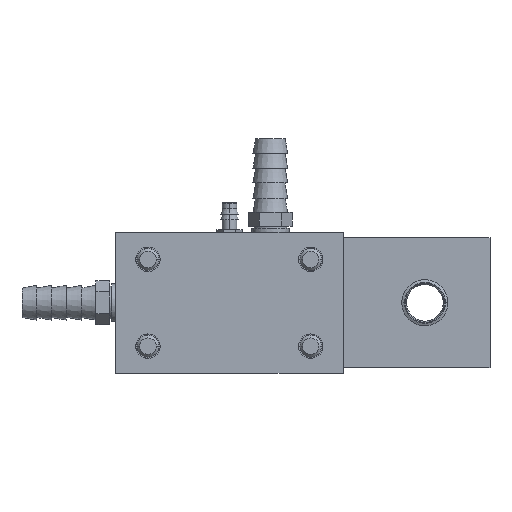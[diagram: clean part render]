
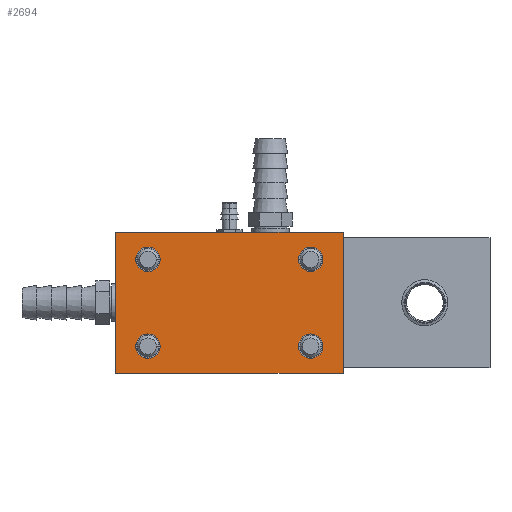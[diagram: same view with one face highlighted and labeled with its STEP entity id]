
A CAD part, left-side view. The second image highlights one B-rep face of the part: STEP entity #2694.
In plain terms, the highlighted planar face has unit normal (-1, 0, 0).
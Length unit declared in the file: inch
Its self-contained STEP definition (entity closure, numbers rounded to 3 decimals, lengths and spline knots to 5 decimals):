
#2429=CARTESIAN_POINT('',(-3.3125,-0.935,-0.5));
#2430=DIRECTION('',(1.,0.,0.));
#2431=DIRECTION('',(0.,-1.,0.));
#2432=AXIS2_PLACEMENT_3D('',#2429,#2430,#2431);
#2434=CARTESIAN_POINT('',(-3.3125,-0.935,-0.5));
#2435=DIRECTION('',(1.,0.,0.));
#2436=DIRECTION('',(0.,1.,0.));
#2437=AXIS2_PLACEMENT_3D('',#2434,#2435,#2436);
#2439=CARTESIAN_POINT('',(-3.3125,-0.935,0.5));
#2440=DIRECTION('',(1.,0.,0.));
#2441=DIRECTION('',(0.,-1.,0.));
#2442=AXIS2_PLACEMENT_3D('',#2439,#2440,#2441);
#2444=CARTESIAN_POINT('',(-3.3125,-0.935,0.5));
#2445=DIRECTION('',(1.,0.,0.));
#2446=DIRECTION('',(0.,1.,0.));
#2447=AXIS2_PLACEMENT_3D('',#2444,#2445,#2446);
#2449=CARTESIAN_POINT('',(-3.3125,0.94,-0.5));
#2450=DIRECTION('',(1.,0.,0.));
#2451=DIRECTION('',(0.,-1.,0.));
#2452=AXIS2_PLACEMENT_3D('',#2449,#2450,#2451);
#2454=CARTESIAN_POINT('',(-3.3125,0.94,-0.5));
#2455=DIRECTION('',(1.,0.,0.));
#2456=DIRECTION('',(0.,1.,0.));
#2457=AXIS2_PLACEMENT_3D('',#2454,#2455,#2456);
#2459=CARTESIAN_POINT('',(-3.3125,0.94,0.5));
#2460=DIRECTION('',(1.,0.,0.));
#2461=DIRECTION('',(0.,-1.,0.));
#2462=AXIS2_PLACEMENT_3D('',#2459,#2460,#2461);
#2464=CARTESIAN_POINT('',(-3.3125,0.94,0.5));
#2465=DIRECTION('',(1.,0.,0.));
#2466=DIRECTION('',(0.,1.,0.));
#2467=AXIS2_PLACEMENT_3D('',#2464,#2465,#2466);
#2497=DIRECTION('',(0.,-1.,0.));
#2498=VECTOR('',#2497,2.625);
#2499=CARTESIAN_POINT('',(-3.3125,1.315,0.8125));
#2500=LINE('',#2499,#2498);
#2505=DIRECTION('',(0.,0.,-1.));
#2506=VECTOR('',#2505,1.625);
#2507=CARTESIAN_POINT('',(-3.3125,-1.31,0.8125));
#2508=LINE('',#2507,#2506);
#2517=DIRECTION('',(0.,1.,0.));
#2518=VECTOR('',#2517,2.625);
#2519=CARTESIAN_POINT('',(-3.3125,-1.31,-0.8125));
#2520=LINE('',#2519,#2518);
#2533=DIRECTION('',(0.,0.,1.));
#2534=VECTOR('',#2533,1.625);
#2535=CARTESIAN_POINT('',(-3.3125,1.315,-0.8125));
#2536=LINE('',#2535,#2534);
#2547=CARTESIAN_POINT('',(-3.3125,1.315,-0.8125));
#2548=VERTEX_POINT('',#2547);
#2549=CARTESIAN_POINT('',(-3.3125,1.315,0.8125));
#2550=VERTEX_POINT('',#2549);
#2553=CARTESIAN_POINT('',(-3.3125,-1.31,-0.8125));
#2554=VERTEX_POINT('',#2553);
#2555=CARTESIAN_POINT('',(-3.3125,-1.31,0.8125));
#2556=VERTEX_POINT('',#2555);
#2557=CARTESIAN_POINT('',(-3.3125,-1.07563,-0.5));
#2559=VERTEX_POINT('',#2557);
#2561=CARTESIAN_POINT('',(-3.3125,-0.79438,-0.5));
#2563=VERTEX_POINT('',#2561);
#2565=CARTESIAN_POINT('',(-3.3125,-1.07563,0.5));
#2567=VERTEX_POINT('',#2565);
#2569=CARTESIAN_POINT('',(-3.3125,-0.79438,0.5));
#2571=VERTEX_POINT('',#2569);
#2573=CARTESIAN_POINT('',(-3.3125,0.79938,-0.5));
#2575=VERTEX_POINT('',#2573);
#2577=CARTESIAN_POINT('',(-3.3125,1.08063,-0.5));
#2579=VERTEX_POINT('',#2577);
#2581=CARTESIAN_POINT('',(-3.3125,0.79938,0.5));
#2583=VERTEX_POINT('',#2581);
#2585=CARTESIAN_POINT('',(-3.3125,1.08063,0.5));
#2587=VERTEX_POINT('',#2585);
#2657=CARTESIAN_POINT('',(-3.3125,0.0025,0.));
#2658=DIRECTION('',(-1.,0.,0.));
#2659=DIRECTION('',(0.,1.,0.));
#2660=AXIS2_PLACEMENT_3D('',#2657,#2658,#2659);
#2661=PLANE('',#2660);
#2663=ORIENTED_EDGE('',*,*,#2662,.T.);
#2665=ORIENTED_EDGE('',*,*,#2664,.T.);
#2667=ORIENTED_EDGE('',*,*,#2666,.T.);
#2669=ORIENTED_EDGE('',*,*,#2668,.T.);
#2670=EDGE_LOOP('',(#2663,#2665,#2667,#2669));
#2671=FACE_OUTER_BOUND('',#2670,.F.);
#2673=ORIENTED_EDGE('',*,*,#2672,.F.);
#2675=ORIENTED_EDGE('',*,*,#2674,.F.);
#2676=EDGE_LOOP('',(#2673,#2675));
#2677=FACE_BOUND('',#2676,.F.);
#2679=ORIENTED_EDGE('',*,*,#2678,.F.);
#2681=ORIENTED_EDGE('',*,*,#2680,.F.);
#2682=EDGE_LOOP('',(#2679,#2681));
#2683=FACE_BOUND('',#2682,.F.);
#2685=ORIENTED_EDGE('',*,*,#2684,.F.);
#2687=ORIENTED_EDGE('',*,*,#2686,.F.);
#2688=EDGE_LOOP('',(#2685,#2687));
#2689=FACE_BOUND('',#2688,.F.);
#2690=ORIENTED_EDGE('',*,*,#2598,.F.);
#2691=ORIENTED_EDGE('',*,*,#2651,.F.);
#2692=EDGE_LOOP('',(#2690,#2691));
#2693=FACE_BOUND('',#2692,.F.);
#2433=CIRCLE('',#2432,0.14063);
#2438=CIRCLE('',#2437,0.14063);
#2443=CIRCLE('',#2442,0.14063);
#2448=CIRCLE('',#2447,0.14063);
#2453=CIRCLE('',#2452,0.14063);
#2458=CIRCLE('',#2457,0.14063);
#2463=CIRCLE('',#2462,0.14063);
#2468=CIRCLE('',#2467,0.14063);
#2598=EDGE_CURVE('',#2559,#2563,#2433,.T.);
#2651=EDGE_CURVE('',#2563,#2559,#2438,.T.);
#2662=EDGE_CURVE('',#2550,#2556,#2500,.T.);
#2664=EDGE_CURVE('',#2556,#2554,#2508,.T.);
#2666=EDGE_CURVE('',#2554,#2548,#2520,.T.);
#2668=EDGE_CURVE('',#2548,#2550,#2536,.T.);
#2672=EDGE_CURVE('',#2567,#2571,#2443,.T.);
#2674=EDGE_CURVE('',#2571,#2567,#2448,.T.);
#2678=EDGE_CURVE('',#2575,#2579,#2453,.T.);
#2680=EDGE_CURVE('',#2579,#2575,#2458,.T.);
#2684=EDGE_CURVE('',#2583,#2587,#2463,.T.);
#2686=EDGE_CURVE('',#2587,#2583,#2468,.T.);
#2694=ADVANCED_FACE('',(#2671,#2677,#2683,#2689,#2693),#2661,.T.);
